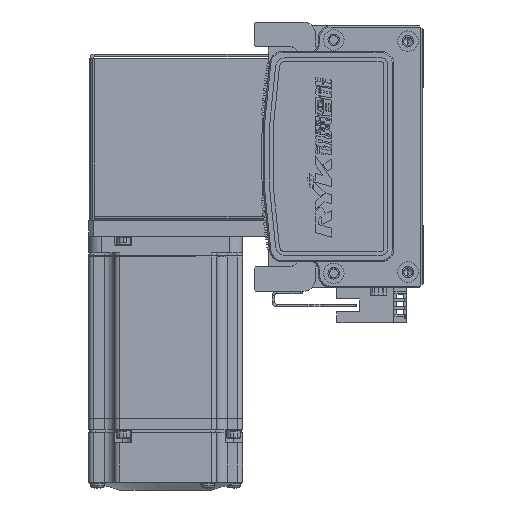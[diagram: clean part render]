
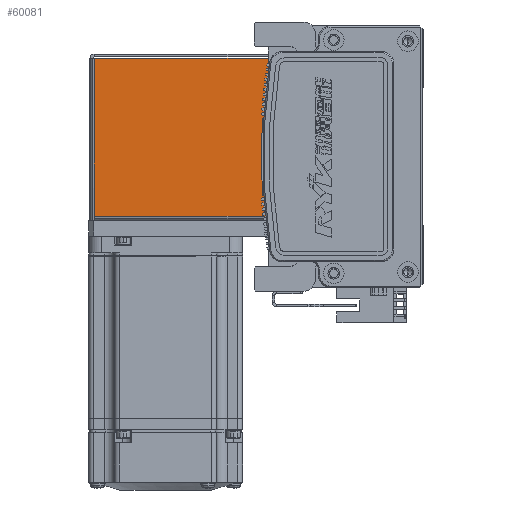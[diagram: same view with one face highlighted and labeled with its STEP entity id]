
A CAD part, left-side view. The second image highlights one B-rep face of the part: STEP entity #60081.
In plain terms, the highlighted planar face has unit normal (-1, 0, 0) as drawn and (0, 0, 1) by its records, which use the part's own axes.
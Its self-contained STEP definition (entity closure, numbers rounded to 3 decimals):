
#315 = CARTESIAN_POINT ( 'NONE',  ( -30.793, 0.737, 35. ) ) ;
#3165 = DIRECTION ( 'NONE',  ( -1., 0., 0. ) ) ;
#7909 = DIRECTION ( 'NONE',  ( 0., 0., -1. ) ) ;
#8111 = ORIENTED_EDGE ( 'NONE', *, *, #62227, .F. ) ;
#8714 = EDGE_CURVE ( 'NONE', #12086, #8969, #53919, .T. ) ;
#8969 = VERTEX_POINT ( 'NONE', #43791 ) ;
#9006 = CARTESIAN_POINT ( 'NONE',  ( 30.763, 0.737, 35. ) ) ;
#9103 = AXIS2_PLACEMENT_3D ( 'NONE', #38991, #7909, #35462 ) ;
#9141 = EDGE_CURVE ( 'NONE', #12086, #56217, #39677, .T. ) ;
#10990 = ORIENTED_EDGE ( 'NONE', *, *, #8714, .T. ) ;
#12086 = VERTEX_POINT ( 'NONE', #22128 ) ;
#13894 = ORIENTED_EDGE ( 'NONE', *, *, #9141, .F. ) ;
#22128 = CARTESIAN_POINT ( 'NONE',  ( 30.763, 0.737, 35. ) ) ;
#22154 = CARTESIAN_POINT ( 'NONE',  ( -30.793, 0., 35. ) ) ;
#22941 = DIRECTION ( 'NONE',  ( -1., 0., 0. ) ) ;
#24559 = LINE ( 'NONE', #22154, #66418 ) ;
#27532 = DIRECTION ( 'NONE',  ( 0., 1., 0. ) ) ;
#28614 = PLANE ( 'NONE',  #9103 ) ;
#30248 = LINE ( 'NONE', #35228, #41944 ) ;
#35228 = CARTESIAN_POINT ( 'NONE',  ( 0., 68.5, 35. ) ) ;
#35462 = DIRECTION ( 'NONE',  ( -1., 0., 0. ) ) ;
#38876 = VECTOR ( 'NONE', #51967, 1000. ) ;
#38991 = CARTESIAN_POINT ( 'NONE',  ( 0., 0., 35. ) ) ;
#39117 = EDGE_LOOP ( 'NONE', ( #10990, #61300, #8111, #13894 ) ) ;
#39677 = LINE ( 'NONE', #60760, #47176 ) ;
#41944 = VECTOR ( 'NONE', #3165, 1000. ) ;
#43791 = CARTESIAN_POINT ( 'NONE',  ( 30.763, 68.5, 35. ) ) ;
#47176 = VECTOR ( 'NONE', #22941, 1000. ) ;
#51967 = DIRECTION ( 'NONE',  ( 0., 1., 0. ) ) ;
#53564 = FACE_OUTER_BOUND ( 'NONE', #39117, .T. ) ;
#53919 = LINE ( 'NONE', #9006, #38876 ) ;
#56217 = VERTEX_POINT ( 'NONE', #315 ) ;
#59796 = EDGE_CURVE ( 'NONE', #8969, #69180, #30248, .T. ) ;
#60081 = ADVANCED_FACE ( 'NONE', ( #53564 ), #28614, .F. ) ;
#60760 = CARTESIAN_POINT ( 'NONE',  ( -32.5, 0.737, 35. ) ) ;
#61300 = ORIENTED_EDGE ( 'NONE', *, *, #59796, .T. ) ;
#62227 = EDGE_CURVE ( 'NONE', #56217, #69180, #24559, .T. ) ;
#63019 = CARTESIAN_POINT ( 'NONE',  ( -30.793, 68.5, 35. ) ) ;
#66418 = VECTOR ( 'NONE', #27532, 1000. ) ;
#69180 = VERTEX_POINT ( 'NONE', #63019 ) ;
